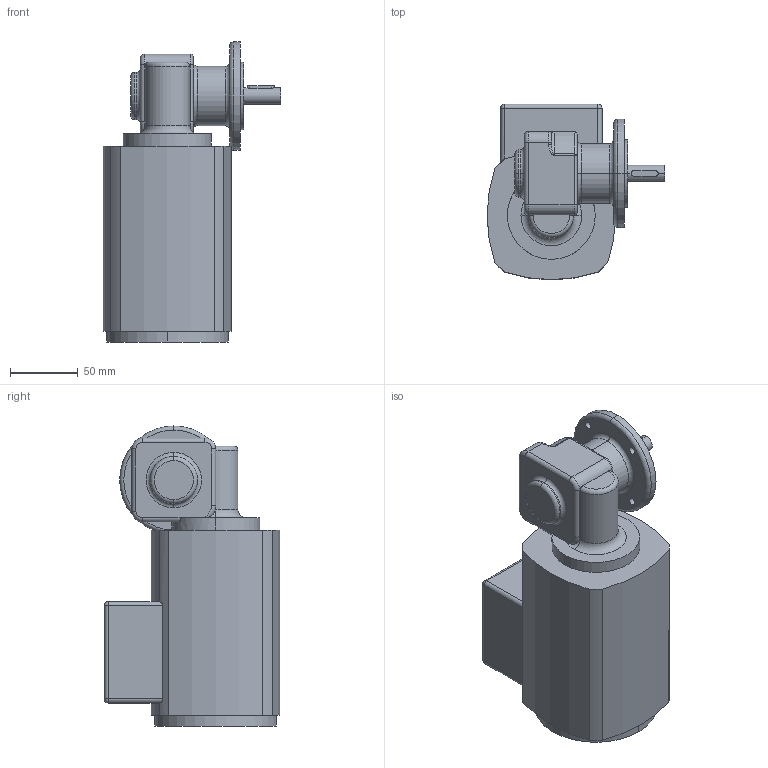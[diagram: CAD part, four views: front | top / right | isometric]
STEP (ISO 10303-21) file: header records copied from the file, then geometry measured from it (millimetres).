
FILE_DESCRIPTION (( 'STEP AP203' ), '1' );
FILE_NAME ('SN5FRUG-90W-A.STEP', '2013-09-16T13:06:45', ( '' ), ( '' ), 'SwSTEP 2.0', 'SolidWorks 2011', '' );
FILE_SCHEMA (( 'CONFIG_CONTROL_DESIGN' ));
Length unit declared in the file: millimetre
Products named in the file (3): SN5FRUG-90W-A; 90W-UG-Mot-of; SN5FR
Assembly tree (2 placements, depth 2):
  SN5FRUG-90W-A
    90W-UG-Mot-of
    SN5FR
Bounding box: 131.5 x 130 x 222 mm (x, y, z)
Volume: 1637039.7 mm3; surface area: 110645 mm2
Topology: 2 solids, 2 shells, 138 faces, 326 edges, 192 vertices
Faces by surface type: cylinder 70, plane 28, torus 28, sphere 8, bspline 4
Entity records: 4810 total; most frequent: CARTESIAN_POINT 1295, DIRECTION 743, ORIENTED_EDGE 640, EDGE_CURVE 320, AXIS2_PLACEMENT_3D 316, VERTEX_POINT 192, CIRCLE 177, EDGE_LOOP 152
